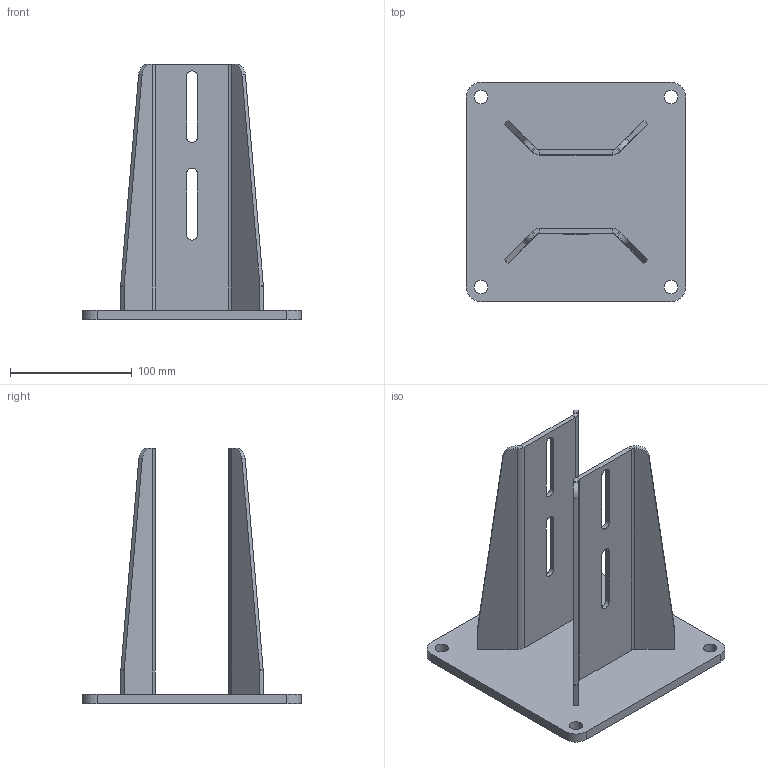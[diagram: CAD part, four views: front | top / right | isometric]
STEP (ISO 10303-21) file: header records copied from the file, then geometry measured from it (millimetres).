
FILE_DESCRIPTION(/* description */ ('FOOT FOR PROFILE 500-1015'),/* implementation_level */ '2;1');
FILE_NAME(/* name */ '500-1141.stp',/* time_stamp */ '2022-09-16T08:16:05+02:00',/* author */ ('PL'),/* organization */ ('CARRYLINE'),/* preprocessor_version */ 'ST-DEVELOPER v19.2',/* originating_system */ 'Autodesk Inventor 2023',/* authorisation */ '');
FILE_SCHEMA (('AUTOMOTIVE_DESIGN { 1 0 10303 214 3 1 1 }'));
Length unit declared in the file: millimetre
Products named in the file (3): 500-1141; 16829_2; 16829_1
Assembly tree (3 placements, depth 2):
  500-1141
    16829_1  x2
    16829_2
Bounding box: 180 x 180 x 210 mm (x, y, z)
Volume: 431215.1 mm3; surface area: 168776.6 mm2
Topology: 3 solids, 3 shells, 126 faces, 328 edges, 208 vertices
Faces by surface type: plane 94, cylinder 32
Full cylindrical faces by diameter (mm): 11 x4
Entity records: 2677 total; most frequent: CARTESIAN_POINT 446, ORIENTED_EDGE 436, DIRECTION 434, EDGE_CURVE 218, LINE 178, VECTOR 178, VERTEX_POINT 140, AXIS2_PLACEMENT_3D 128
